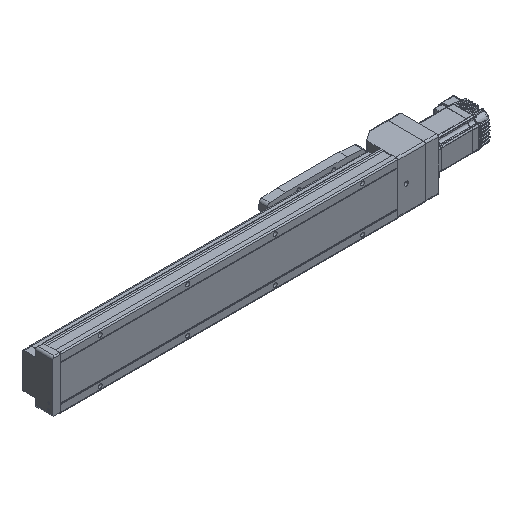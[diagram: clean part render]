
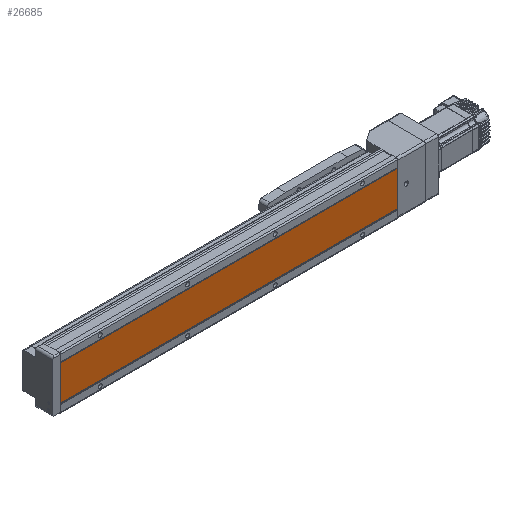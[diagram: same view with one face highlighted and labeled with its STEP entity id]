
A CAD part, isometric view. The second image highlights one B-rep face of the part: STEP entity #26685.
In plain terms, the highlighted planar face has unit normal (0, -1, 0).
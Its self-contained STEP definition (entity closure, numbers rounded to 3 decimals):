
#4865 = CARTESIAN_POINT ( 'NONE',  ( -29.843, 1., 1378. ) ) ;
#5673 = LINE ( 'NONE', #13518, #45063 ) ;
#6602 = CARTESIAN_POINT ( 'NONE',  ( 29.843, 1., 578. ) ) ;
#7517 = DIRECTION ( 'NONE',  ( 1., 0., 0. ) ) ;
#7539 = CARTESIAN_POINT ( 'NONE',  ( -29.843, 1., 0. ) ) ;
#9228 = LINE ( 'NONE', #26875, #19157 ) ;
#10974 = EDGE_CURVE ( 'NONE', #17337, #47793, #5673, .T. ) ;
#11650 = FACE_OUTER_BOUND ( 'NONE', #20728, .T. ) ;
#13249 = VERTEX_POINT ( 'NONE', #56954 ) ;
#13518 = CARTESIAN_POINT ( 'NONE',  ( -29.843, 1., 578. ) ) ;
#14137 = DIRECTION ( 'NONE',  ( 0., 0., -1. ) ) ;
#16005 = ORIENTED_EDGE ( 'NONE', *, *, #40442, .F. ) ;
#16214 = LINE ( 'NONE', #24910, #55581 ) ;
#16830 = EDGE_CURVE ( 'NONE', #20355, #13249, #16214, .T. ) ;
#17337 = VERTEX_POINT ( 'NONE', #43709 ) ;
#19157 = VECTOR ( 'NONE', #22836, 1000. ) ;
#20355 = VERTEX_POINT ( 'NONE', #7539 ) ;
#20728 = EDGE_LOOP ( 'NONE', ( #57312, #33025, #46647, #16005 ) ) ;
#22814 = EDGE_CURVE ( 'NONE', #17337, #20355, #36170, .T. ) ;
#22836 = DIRECTION ( 'NONE',  ( 0., 0., -1. ) ) ;
#23826 = VECTOR ( 'NONE', #14137, 1000. ) ;
#24910 = CARTESIAN_POINT ( 'NONE',  ( -29.843, 1., 0. ) ) ;
#26685 = ADVANCED_FACE ( 'NONE', ( #11650 ), #29576, .F. ) ;
#26875 = CARTESIAN_POINT ( 'NONE',  ( 29.843, 1., 1378. ) ) ;
#29576 = PLANE ( 'NONE',  #40889 ) ;
#32038 = DIRECTION ( 'NONE',  ( 1., 0., 0. ) ) ;
#33025 = ORIENTED_EDGE ( 'NONE', *, *, #22814, .T. ) ;
#36170 = LINE ( 'NONE', #4865, #23826 ) ;
#38307 = CARTESIAN_POINT ( 'NONE',  ( -29.843, 1., 1378. ) ) ;
#38594 = DIRECTION ( 'NONE',  ( 0., 1., 0. ) ) ;
#40442 = EDGE_CURVE ( 'NONE', #47793, #13249, #9228, .T. ) ;
#40889 = AXIS2_PLACEMENT_3D ( 'NONE', #38307, #38594, #55997 ) ;
#43709 = CARTESIAN_POINT ( 'NONE',  ( -29.843, 1., 578. ) ) ;
#45063 = VECTOR ( 'NONE', #32038, 1000. ) ;
#46647 = ORIENTED_EDGE ( 'NONE', *, *, #16830, .T. ) ;
#47793 = VERTEX_POINT ( 'NONE', #6602 ) ;
#55581 = VECTOR ( 'NONE', #7517, 1000. ) ;
#55997 = DIRECTION ( 'NONE',  ( 0., 0., 1. ) ) ;
#56954 = CARTESIAN_POINT ( 'NONE',  ( 29.843, 1., 0. ) ) ;
#57312 = ORIENTED_EDGE ( 'NONE', *, *, #10974, .F. ) ;
